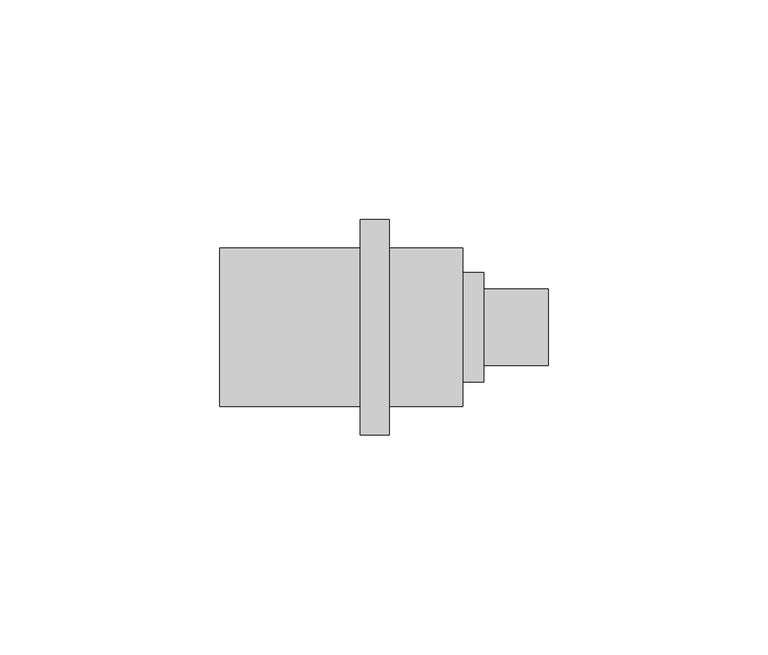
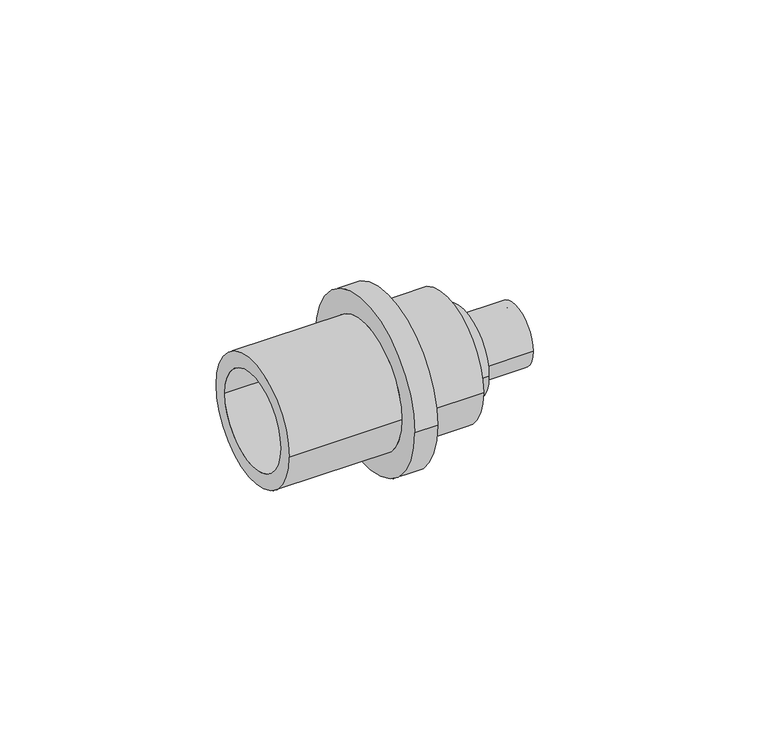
"""IFC4 building model written with IfcOpenShell, lengths in millimetres: pipe fitting geometry, Coupling transistion : C RE SDR11 LX."""

from ifc_helpers import new_model, si_unit, frame, origin, place, context, project, spatial, polyline, circle_curve, source, transform, mapped, element, save
from ifc_brep_helpers import plane_surface, cylinder_surface, revolved_surface, advanced_brep


def pipe_fitting_dab1daa7(model_context):
    return source(origin(), model_context, "Body", "AdvancedBrep", [
        advanced_brep(
        [(-17.0, 18.0, 0.0), (-17.0, -18.0, 0.0), (-49.0, -18.0, 0.0), (-49.0, 18.0, 0.0), (-10.5, 24.5, 0.0), (-10.5, -24.5, 0.0), (-17.0, -24.5, 0.0), (-17.0, 24.5, 0.0), (6.3, 18.0, 0.0), (6.3, -18.0, 0.0), (-10.5, -18.0, 0.0), (-10.5, 18.0, 0.0), (11.0, 12.5, 0.0), (11.0, -12.5, 0.0), (6.3, -12.5, 0.0), (6.3, 12.5, 0.0), (25.7, 8.75, 0.0), (25.7, -8.75, 0.0), (11.0, -8.75, 0.0), (11.0, 8.75, 0.0), (0.0, 6.7, 0.0), (0.0, -6.7, 0.0), (25.7, -6.7, 0.0), (25.7, 6.7, 0.0), (-49.0, 13.7, 0.0), (-49.0, -13.7, 0.0), (0.0, -13.7, 0.0), (0.0, 13.7, 0.0)],
        [
            (0, 1, circle_curve(frame((-17.0, 0.0, 0.0), z_axis=(-1.0, 0.0, 0.0), x_axis=(0.0, -1.0, 0.0)), 18.0)),
            (1, 2),
            (2, 3, circle_curve(frame((-49.0, 0.0, 0.0), z_axis=(1.0, 0.0, 0.0), x_axis=(0.0, -1.0, 0.0)), 18.0)),
            (3, 0),
            (4, 5, circle_curve(frame((-10.5, 0.0, 0.0), z_axis=(-1.0, 0.0, 0.0), x_axis=(0.0, -1.0, 0.0)), 24.5)),
            (5, 6),
            (6, 7, circle_curve(frame((-17.0, 0.0, 0.0), z_axis=(1.0, 0.0, 0.0), x_axis=(0.0, -1.0, 0.0)), 24.5)),
            (7, 4),
            (8, 9, circle_curve(frame((6.3, 0.0, 0.0), z_axis=(-1.0, 0.0, 0.0), x_axis=(0.0, -1.0, 0.0)), 18.0)),
            (9, 10),
            (10, 11, circle_curve(frame((-10.5, 0.0, 0.0), z_axis=(1.0, 0.0, 0.0), x_axis=(0.0, -1.0, 0.0)), 18.0)),
            (11, 8),
            (12, 13, circle_curve(frame((11.0, 0.0, 0.0), z_axis=(-1.0, 0.0, 0.0), x_axis=(0.0, -1.0, 0.0)), 12.5)),
            (13, 14),
            (14, 15, circle_curve(frame((6.3, 0.0, 0.0), z_axis=(1.0, 0.0, 0.0), x_axis=(0.0, -1.0, 0.0)), 12.5)),
            (15, 12),
            (16, 17, circle_curve(frame((25.7, 0.0, 0.0), z_axis=(-1.0, 0.0, 0.0), x_axis=(0.0, -1.0, 0.0)), 8.75)),
            (17, 18),
            (18, 19, circle_curve(frame((11.0, 0.0, 0.0), z_axis=(1.0, 0.0, 0.0), x_axis=(0.0, -1.0, 0.0)), 8.75)),
            (19, 16),
            (20, 21, circle_curve(frame((0.0, 0.0, 0.0), z_axis=(-1.0, 0.0, 0.0), x_axis=(0.0, -1.0, 0.0)), 6.7)),
            (21, 22),
            (22, 23, circle_curve(frame((25.7, 0.0, 0.0), z_axis=(1.0, 0.0, 0.0), x_axis=(0.0, -1.0, 0.0)), 6.7)),
            (23, 20),
            (24, 25, circle_curve(frame((-49.0, 0.0, 0.0), z_axis=(-1.0, 0.0, 0.0), x_axis=(0.0, -1.0, 0.0)), 13.7)),
            (25, 26),
            (26, 27, circle_curve(frame((0.0, 0.0, 0.0), z_axis=(1.0, 0.0, 0.0), x_axis=(0.0, -1.0, 0.0)), 13.7)),
            (27, 24),
            (2, 3, circle_curve(frame((-49.0, 0.0, 0.0), z_axis=(-1.0, 0.0, 0.0), x_axis=(0.0, 1.0, 0.0)), 18.0)),
            (24, 25, circle_curve(frame((-49.0, 0.0, 0.0), z_axis=(1.0, 0.0, 0.0), x_axis=(0.0, 1.0, 0.0)), 13.7)),
            (1, 0, circle_curve(frame((-17.0, 0.0, 0.0), z_axis=(-1.0, 0.0, 0.0), x_axis=(0.0, 1.0, 0.0)), 18.0)),
            (6, 7, circle_curve(frame((-17.0, 0.0, 0.0), z_axis=(-1.0, 0.0, 0.0), x_axis=(0.0, 1.0, 0.0)), 24.5)),
            (5, 4, circle_curve(frame((-10.5, 0.0, 0.0), z_axis=(-1.0, 0.0, 0.0), x_axis=(0.0, 1.0, 0.0)), 24.5)),
            (10, 11, circle_curve(frame((-10.5, 0.0, 0.0), z_axis=(-1.0, 0.0, 0.0), x_axis=(0.0, 1.0, 0.0)), 18.0)),
            (9, 8, circle_curve(frame((6.3, 0.0, 0.0), z_axis=(-1.0, 0.0, 0.0), x_axis=(0.0, 1.0, 0.0)), 18.0)),
            (14, 15, circle_curve(frame((6.3, 0.0, 0.0), z_axis=(-1.0, 0.0, 0.0), x_axis=(0.0, 1.0, 0.0)), 12.5)),
            (13, 12, circle_curve(frame((11.0, 0.0, 0.0), z_axis=(-1.0, 0.0, 0.0), x_axis=(0.0, 1.0, 0.0)), 12.5)),
            (18, 19, circle_curve(frame((11.0, 0.0, 0.0), z_axis=(-1.0, 0.0, 0.0), x_axis=(0.0, 1.0, 0.0)), 8.75)),
            (17, 16, circle_curve(frame((25.7, 0.0, 0.0), z_axis=(-1.0, 0.0, 0.0), x_axis=(0.0, 1.0, 0.0)), 8.75)),
            (22, 23, circle_curve(frame((25.7, 0.0, 0.0), z_axis=(-1.0, 0.0, 0.0), x_axis=(0.0, 1.0, 0.0)), 6.7)),
            (21, 20, circle_curve(frame((0.0, 0.0, 0.0), z_axis=(-1.0, 0.0, 0.0), x_axis=(0.0, 1.0, 0.0)), 6.7)),
            (26, 27, circle_curve(frame((0.0, 0.0, 0.0), z_axis=(-1.0, 0.0, 0.0), x_axis=(0.0, 1.0, 0.0)), 13.7)),
        ],
        [
            cylinder_surface(frame((0.0, 0.0, 0.0), z_axis=(1.0, 0.0, 0.0), x_axis=(0.0, -1.0, 0.0)), 18.0),
            cylinder_surface(frame((0.0, 0.0, 0.0), z_axis=(1.0, 0.0, 0.0), x_axis=(0.0, -1.0, 0.0)), 24.5),
            cylinder_surface(frame((0.0, 0.0, 0.0), z_axis=(1.0, 0.0, 0.0), x_axis=(0.0, -1.0, 0.0)), 12.5),
            cylinder_surface(frame((0.0, 0.0, 0.0), z_axis=(1.0, 0.0, 0.0), x_axis=(0.0, -1.0, 0.0)), 8.75),
            revolved_surface(polyline([(25.7, -6.7, 0.0), (0.0, -6.7, 0.0)]), (0.0, 0.0, 0.0), (1.0, 0.0, 0.0)),
            revolved_surface(polyline([(0.0, -13.7, 0.0), (-49.0, -13.7, 0.0)]), (0.0, 0.0, 0.0), (1.0, 0.0, 0.0)),
            plane_surface(frame((-49.0, 0.0, 0.0), z_axis=(-1.0, 0.0, 0.0), x_axis=(0.0, 1.0, 0.0))),
            cylinder_surface(frame((0.0, 0.0, 0.0), z_axis=(1.0, 0.0, 0.0), x_axis=(0.0, 1.0, 0.0)), 18.0),
            plane_surface(frame((-17.0, 0.0, 0.0), z_axis=(-1.0, 0.0, 0.0), x_axis=(0.0, 1.0, 0.0))),
            cylinder_surface(frame((0.0, 0.0, 0.0), z_axis=(1.0, 0.0, 0.0), x_axis=(0.0, 1.0, 0.0)), 24.5),
            plane_surface(frame((-10.5, 0.0, 0.0), z_axis=(1.0, 0.0, 0.0), x_axis=(0.0, 1.0, 0.0))),
            plane_surface(frame((6.3, 0.0, 0.0), z_axis=(1.0, 0.0, 0.0), x_axis=(0.0, 1.0, 0.0))),
            cylinder_surface(frame((0.0, 0.0, 0.0), z_axis=(1.0, 0.0, 0.0), x_axis=(0.0, 1.0, 0.0)), 12.5),
            plane_surface(frame((11.0, 0.0, 0.0), z_axis=(1.0, 0.0, 0.0), x_axis=(0.0, 1.0, 0.0))),
            cylinder_surface(frame((0.0, 0.0, 0.0), z_axis=(1.0, 0.0, 0.0), x_axis=(0.0, 1.0, 0.0)), 8.75),
            plane_surface(frame((25.7, 0.0, 0.0), z_axis=(1.0, 0.0, 0.0), x_axis=(0.0, 1.0, 0.0))),
            revolved_surface(polyline([(25.7, 6.7, 0.0), (0.0, 6.7, 0.0)]), (0.0, 0.0, 0.0), (1.0, 0.0, 0.0)),
            plane_surface(frame((0.0, 0.0, 0.0), z_axis=(-1.0, 0.0, 0.0), x_axis=(0.0, 1.0, 0.0))),
            revolved_surface(polyline([(0.0, 13.7, 0.0), (-49.0, 13.7, 0.0)]), (0.0, 0.0, 0.0), (1.0, 0.0, 0.0)),
        ],
        [
            (0, [[1, 2, 3, 4]]),
            (1, [[5, 6, 7, 8]]),
            (0, [[9, 10, 11, 12]]),
            (2, [[13, 14, 15, 16]]),
            (3, [[17, 18, 19, 20]]),
            (4, [[21, 22, 23, 24]]),
            (5, [[25, 26, 27, 28]]),
            (6, [[29, -3], [30, -25]]),
            (7, [[31, -4, -29, -2]]),
            (8, [[32, -7], [-31, -1]]),
            (9, [[33, -8, -32, -6]]),
            (10, [[-33, -5], [34, -11]]),
            (7, [[35, -12, -34, -10]]),
            (11, [[-35, -9], [36, -15]]),
            (12, [[37, -16, -36, -14]]),
            (13, [[-37, -13], [38, -19]]),
            (14, [[39, -20, -38, -18]]),
            (15, [[-39, -17], [40, -23]]),
            (16, [[41, -24, -40, -22]]),
            (17, [[42, -27], [-41, -21]]),
            (18, [[-30, -28, -42, -26]]),
        ],
    ),
    ])


if __name__ == "__main__":
    model = new_model("IFC4")
    model_context = context("Model", 3, world=origin())
    ifc_project = project(units=[si_unit("LENGTHUNIT", "METRE", prefix="MILLI")], contexts=[model_context])
    site = spatial("IfcSite", under=ifc_project)
    building = spatial("IfcBuilding", under=site)
    placement = place(None, origin())
    pipe_fitting_shape = pipe_fitting_dab1daa7(model_context)
    element("IfcPipeFitting", 1, ObjectType="Coupling transistion : C RE SDR11 LX", at=placement, inside=building, context=model_context, shape_type="MappedRepresentation", body=[
        mapped(pipe_fitting_shape, transform((0.0, 0.0, 0.0), x_axis=(1.0, 0.0, 0.0), y_axis=(0.0, 1.0, 0.0), z_axis=(0.0, 0.0, 1.0))),
    ])
    save(model, "model.ifc")
